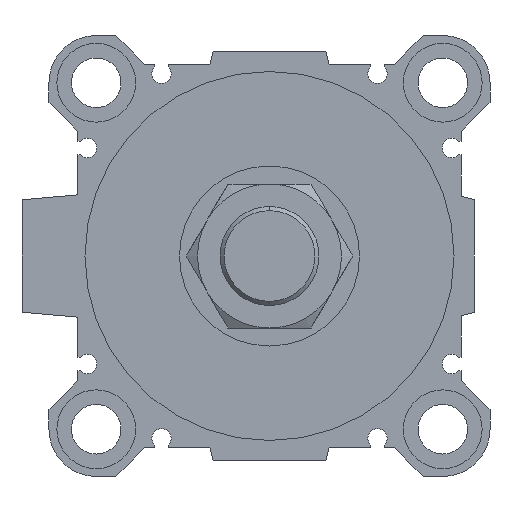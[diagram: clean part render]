
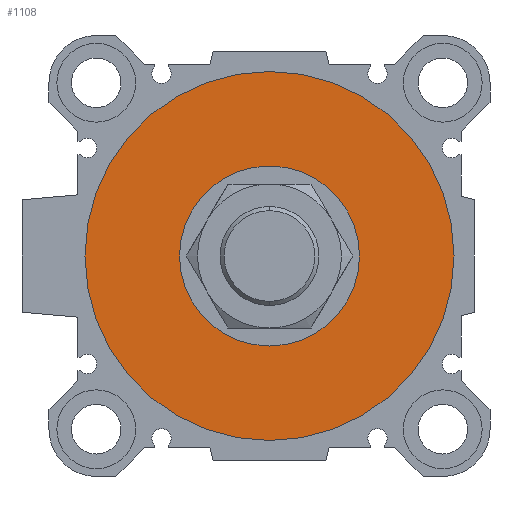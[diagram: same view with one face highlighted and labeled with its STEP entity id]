
A CAD part, left-side view. The second image highlights one B-rep face of the part: STEP entity #1108.
In plain terms, the highlighted planar face has unit normal (-1, 0, 0).
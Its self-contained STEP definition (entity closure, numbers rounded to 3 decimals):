
#710 = DIRECTION ( 'NONE',  ( 0., 0., -1. ) ) ;
#843 = AXIS2_PLACEMENT_3D ( 'NONE', #5294, #3692, #710 ) ;
#920 = AXIS2_PLACEMENT_3D ( 'NONE', #4774, #5917, #6414 ) ;
#1108 = ADVANCED_FACE ( 'NONE', ( #1213, #3541 ), #1783, .F. ) ;
#1151 = DIRECTION ( 'NONE',  ( 0., 0., -1. ) ) ;
#1213 = FACE_OUTER_BOUND ( 'NONE', #4152, .T. ) ;
#1319 = DIRECTION ( 'NONE',  ( 1., 0., 0. ) ) ;
#1570 = DIRECTION ( 'NONE',  ( 1., 0., 0. ) ) ;
#1610 = CIRCLE ( 'NONE', #6250, 41. ) ;
#1636 = EDGE_CURVE ( 'NONE', #4334, #5459, #2620, .T. ) ;
#1698 = CIRCLE ( 'NONE', #843, 20. ) ;
#1783 = PLANE ( 'NONE',  #920 ) ;
#1960 = EDGE_LOOP ( 'NONE', ( #4264, #5631 ) ) ;
#2251 = ORIENTED_EDGE ( 'NONE', *, *, #2432, .F. ) ;
#2282 = CIRCLE ( 'NONE', #6560, 41. ) ;
#2291 = CARTESIAN_POINT ( 'NONE',  ( 5., 0., -20. ) ) ;
#2432 = EDGE_CURVE ( 'NONE', #5205, #5913, #2282, .T. ) ;
#2620 = CIRCLE ( 'NONE', #7264, 20. ) ;
#2838 = ORIENTED_EDGE ( 'NONE', *, *, #7068, .F. ) ;
#3541 = FACE_BOUND ( 'NONE', #1960, .T. ) ;
#3692 = DIRECTION ( 'NONE',  ( 1., 0., 0. ) ) ;
#3732 = CARTESIAN_POINT ( 'NONE',  ( 5., 0., 0. ) ) ;
#4142 = CARTESIAN_POINT ( 'NONE',  ( 5., 0., 0. ) ) ;
#4152 = EDGE_LOOP ( 'NONE', ( #2838, #2251 ) ) ;
#4264 = ORIENTED_EDGE ( 'NONE', *, *, #1636, .T. ) ;
#4334 = VERTEX_POINT ( 'NONE', #4696 ) ;
#4690 = CARTESIAN_POINT ( 'NONE',  ( 5., 0., 41. ) ) ;
#4696 = CARTESIAN_POINT ( 'NONE',  ( 5., 0., 20. ) ) ;
#4774 = CARTESIAN_POINT ( 'NONE',  ( 5., 0., 0. ) ) ;
#5089 = DIRECTION ( 'NONE',  ( 0., 0., -1. ) ) ;
#5205 = VERTEX_POINT ( 'NONE', #7235 ) ;
#5294 = CARTESIAN_POINT ( 'NONE',  ( 5., 0., 0. ) ) ;
#5317 = DIRECTION ( 'NONE',  ( 1., 0., 0. ) ) ;
#5416 = DIRECTION ( 'NONE',  ( 0., 0., -1. ) ) ;
#5459 = VERTEX_POINT ( 'NONE', #2291 ) ;
#5631 = ORIENTED_EDGE ( 'NONE', *, *, #5878, .T. ) ;
#5878 = EDGE_CURVE ( 'NONE', #5459, #4334, #1698, .T. ) ;
#5913 = VERTEX_POINT ( 'NONE', #4690 ) ;
#5917 = DIRECTION ( 'NONE',  ( 1., 0., 0. ) ) ;
#6087 = CARTESIAN_POINT ( 'NONE',  ( 5., 0., 0. ) ) ;
#6250 = AXIS2_PLACEMENT_3D ( 'NONE', #4142, #5317, #1151 ) ;
#6414 = DIRECTION ( 'NONE',  ( 0., 1., 0. ) ) ;
#6560 = AXIS2_PLACEMENT_3D ( 'NONE', #6087, #1570, #5089 ) ;
#7068 = EDGE_CURVE ( 'NONE', #5913, #5205, #1610, .T. ) ;
#7235 = CARTESIAN_POINT ( 'NONE',  ( 5., 0., -41. ) ) ;
#7264 = AXIS2_PLACEMENT_3D ( 'NONE', #3732, #1319, #5416 ) ;
